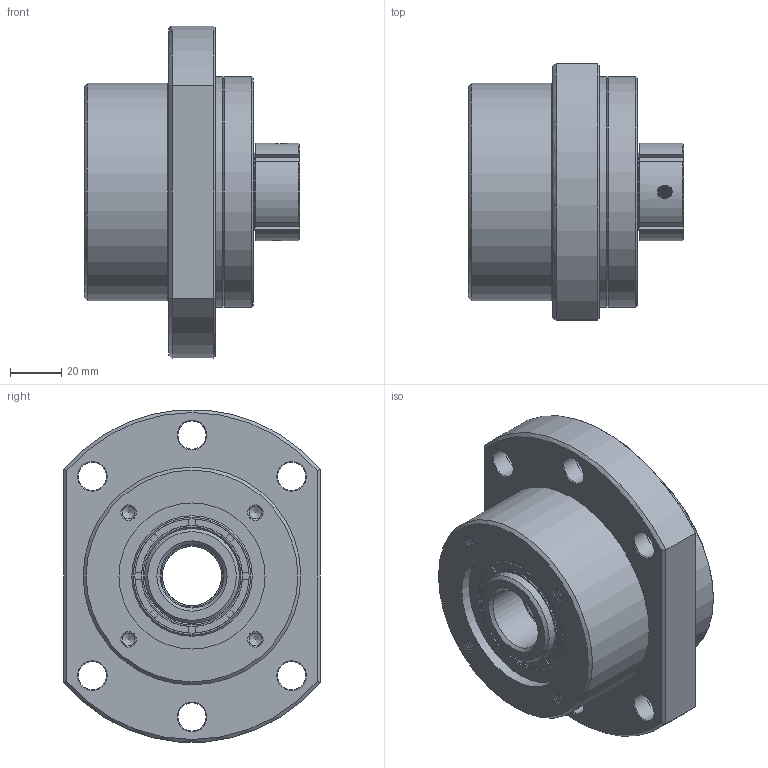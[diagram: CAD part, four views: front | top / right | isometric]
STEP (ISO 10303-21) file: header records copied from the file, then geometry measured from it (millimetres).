
FILE_DESCRIPTION(('STEP AP214'),'1');
FILE_NAME('WBK25DF (2).stp','2016-10-05T11:29:46',(' '),(' '),'Spatial InterOp 3D',' ',' ');
FILE_SCHEMA(('automotive_design'));
Length unit declared in the file: millimetre
Products named in the file (3): Assembly6; WBK25DF; WBK25DF_1
Assembly tree (2 placements, depth 2):
  Assembly6
    WBK25DF
    WBK25DF_1
Bounding box: 84 x 100 x 129.59 mm (x, y, z)
Volume: 397375 mm3; surface area: 93034.9 mm2
Topology: 2 solids, 25 shells, 1080 faces, 2638 edges, 1576 vertices
Faces by surface type: cone 531, plane 279, cylinder 100, torus 98, sphere 72
Full cylindrical faces by diameter (mm): 4.2 x2, 5 x8, 6.6 x6, 8 x6, 9 x6, 11 x6, 13 x6, 14 x6, 17.5 x6, 25 x4, 26.2 x1, 30 x1, 37 x6, 39.4 x4, 44.6 x8, 47 x3, 50.8 x1, 57 x2, 60.8 x1, 62 x4, 83.8 x1, 85 x1, 90 x2
Entity records: 47941 total; most frequent: CARTESIAN_POINT 8772, DIRECTION 4410, ORIENTED_EDGE 3738, STYLED_ITEM 2913, PRESENTATION_STYLE_ASSIGNMENT 2913, COLOUR_RGB 2913, AXIS2_PLACEMENT_3D 1997, EDGE_CURVE 1869
